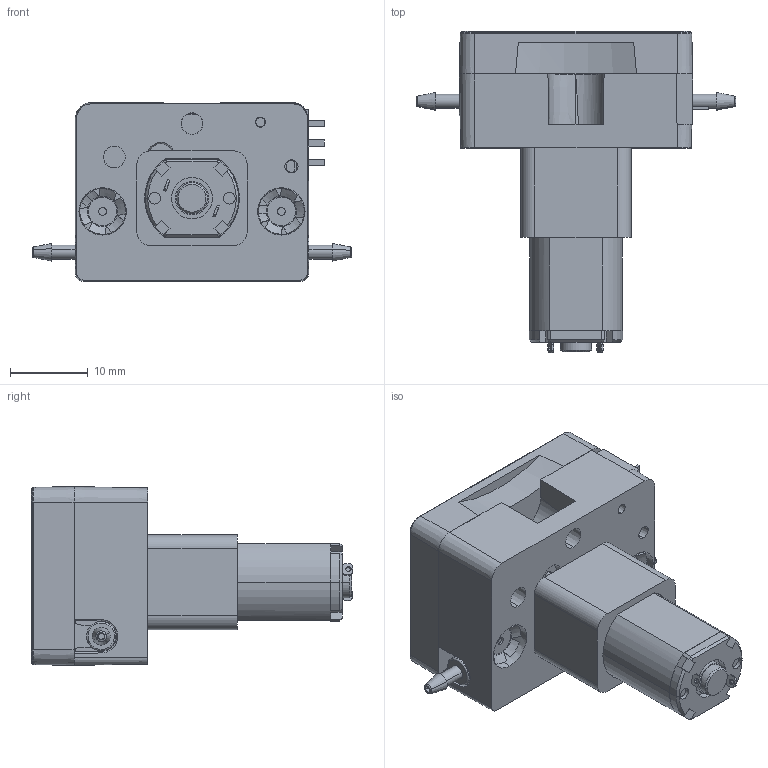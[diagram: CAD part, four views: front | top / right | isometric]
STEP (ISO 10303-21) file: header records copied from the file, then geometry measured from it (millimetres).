
FILE_DESCRIPTION (( 'STEP AP214' ), '1' );
FILE_NAME ('新バルブ組立図 - WEB用.STEP', '2024-11-05T01:14:47', ( '' ), ( '' ), 'SwSTEP 2.0', 'SolidWorks 2024', '' );
FILE_SCHEMA (( 'AUTOMOTIVE_DESIGN' ));
Length unit declared in the file: millimetre
Products named in the file (19): RP-Q1.2_GEAR BASE; RP-Q1.2 Motor Unit Assy; ジョイナーダミー; D3C_2220_ACTUATOR.step; RP-Q1.2 Motor; MOTOR GEAR COVER 1A2; 新バルブ組立図 - WEB用; φ4×t3ネオジウム; プッシュナット; AR-CA64_バルブモーターケース_手配 - WEB用; AR-EN03; オプションチューブ; PACK-SMIB1_6-6; D3C_2220_BASE.step; センサースイッチ; D3C-2220; D3C-2220.step; 平行ピンHX用; AR-FU36_バルブフタ_手配リブ削除 -WEB用
Assembly tree (24 placements, depth 5):
  新バルブ組立図 - WEB用
    RP-Q1.2 Motor Unit Assy
      RP-Q1.2_GEAR BASE
      RP-Q1.2 Motor
    センサースイッチ
      D3C-2220
        D3C-2220.step
          D3C_2220_BASE.step
          D3C_2220_ACTUATOR.step
      D3C_2220_ACTUATOR.step
    φ4×t3ネオジウム  x2
    プッシュナット  x2
    PACK-SMIB1_6-6
    平行ピンHX用  x2
    AR-EN03  x2
    MOTOR GEAR COVER 1A2
    オプションチューブ
      ジョイナーダミー  x2
    AR-CA64_バルブモーターケース_手配 - WEB用
    AR-FU36_バルブフタ_手配リブ削除 -WEB用
Bounding box: 41.1 x 41.36 x 23 mm (x, y, z)
Volume: 11052 mm3; surface area: 8763.8 mm2
Topology: 19 solids, 19 shells, 1070 faces, 2694 edges, 1743 vertices
Faces by surface type: plane 443, bspline 204, cylinder 187, cone 154, torus 81, sphere 1
Entity records: 37006 total; most frequent: CARTESIAN_POINT 15108, ORIENTED_EDGE 4754, DIRECTION 3862, EDGE_CURVE 2377, VERTEX_POINT 1541, AXIS2_PLACEMENT_3D 1318, VECTOR 1226, LINE 1226
